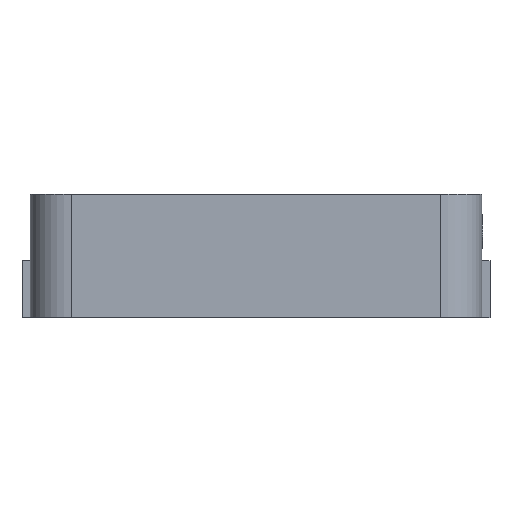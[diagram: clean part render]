
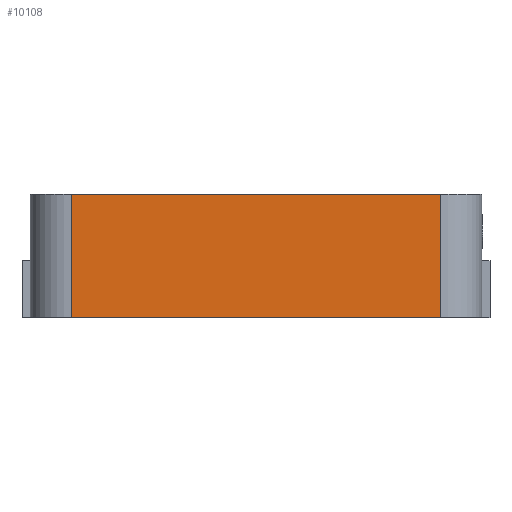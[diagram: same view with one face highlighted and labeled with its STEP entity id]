
A CAD part, front view. The second image highlights one B-rep face of the part: STEP entity #10108.
In plain terms, the highlighted planar face has unit normal (0, -1, 0).
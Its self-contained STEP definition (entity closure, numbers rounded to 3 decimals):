
#1102 = VERTEX_POINT ( 'NONE', #8024 ) ;
#1755 = DIRECTION ( 'NONE',  ( 0., 0., 1. ) ) ;
#2335 = DIRECTION ( 'NONE',  ( 1., 0., 0. ) ) ;
#2700 = DIRECTION ( 'NONE',  ( 1., 0., 0. ) ) ;
#2912 = VERTEX_POINT ( 'NONE', #10628 ) ;
#5831 = PLANE ( 'NONE',  #16073 ) ;
#6137 = EDGE_CURVE ( 'NONE', #1102, #13352, #10230, .T. ) ;
#6212 = ORIENTED_EDGE ( 'NONE', *, *, #6137, .T. ) ;
#6321 = CARTESIAN_POINT ( 'NONE',  ( -2.75, -2.7, 1.5 ) ) ;
#6370 = EDGE_CURVE ( 'NONE', #13168, #2912, #19472, .T. ) ;
#6541 = VECTOR ( 'NONE', #13212, 1000. ) ;
#6745 = EDGE_CURVE ( 'NONE', #13352, #13168, #8438, .T. ) ;
#7234 = VECTOR ( 'NONE', #2335, 1000. ) ;
#7571 = EDGE_LOOP ( 'NONE', ( #17763, #6212, #11985, #12033 ) ) ;
#7766 = CARTESIAN_POINT ( 'NONE',  ( 2.25, -2.7, 0. ) ) ;
#8024 = CARTESIAN_POINT ( 'NONE',  ( -2.25, -2.7, 1.5 ) ) ;
#8438 = LINE ( 'NONE', #13030, #14153 ) ;
#9872 = CARTESIAN_POINT ( 'NONE',  ( -2.75, -2.7, 1.5 ) ) ;
#10108 = ADVANCED_FACE ( 'NONE', ( #17678 ), #5831, .F. ) ;
#10230 = LINE ( 'NONE', #15252, #15776 ) ;
#10313 = CARTESIAN_POINT ( 'NONE',  ( 2.25, -2.7, 1.5 ) ) ;
#10628 = CARTESIAN_POINT ( 'NONE',  ( 2.25, -2.7, 1.5 ) ) ;
#11375 = LINE ( 'NONE', #9872, #7234 ) ;
#11985 = ORIENTED_EDGE ( 'NONE', *, *, #6745, .T. ) ;
#12033 = ORIENTED_EDGE ( 'NONE', *, *, #6370, .T. ) ;
#13030 = CARTESIAN_POINT ( 'NONE',  ( -2.75, -2.7, 0. ) ) ;
#13168 = VERTEX_POINT ( 'NONE', #7766 ) ;
#13212 = DIRECTION ( 'NONE',  ( 0., 0., 1. ) ) ;
#13352 = VERTEX_POINT ( 'NONE', #14561 ) ;
#14153 = VECTOR ( 'NONE', #2700, 1000. ) ;
#14561 = CARTESIAN_POINT ( 'NONE',  ( -2.25, -2.7, 0. ) ) ;
#15252 = CARTESIAN_POINT ( 'NONE',  ( -2.25, -2.7, 1.5 ) ) ;
#15776 = VECTOR ( 'NONE', #16352, 1000. ) ;
#16073 = AXIS2_PLACEMENT_3D ( 'NONE', #6321, #18574, #1755 ) ;
#16352 = DIRECTION ( 'NONE',  ( 0., 0., -1. ) ) ;
#17678 = FACE_OUTER_BOUND ( 'NONE', #7571, .T. ) ;
#17763 = ORIENTED_EDGE ( 'NONE', *, *, #19165, .F. ) ;
#18574 = DIRECTION ( 'NONE',  ( 0., 1., 0. ) ) ;
#19165 = EDGE_CURVE ( 'NONE', #1102, #2912, #11375, .T. ) ;
#19472 = LINE ( 'NONE', #10313, #6541 ) ;
